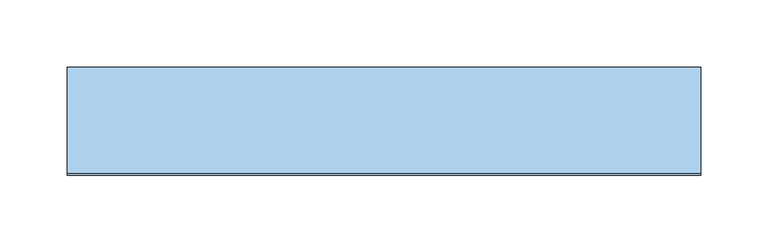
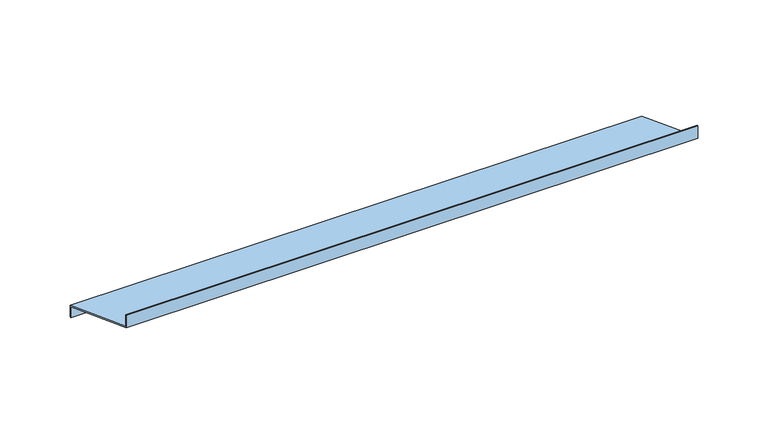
"""IFC4 building model written with IfcOpenShell, lengths in millimetres: window geometry, B2B_Отлив : Отлив_металлический."""

from ifc_helpers import new_model, si_unit, frame, origin, place, context, project, spatial, polyline, outline, extrude, source, transform, mapped, element, save


def window_dc4ac935(model_context):
    return source(origin(), model_context, "Body", "SweptSolid", [
        extrude(outline(polyline([(0.0, 29.3100704), (0.0, 40.0), (1.0, 40.0), (1.0, 30.0), (80.0, 0.0), (80.0, -10.0), (79.0, -10.0), (79.0, -0.6899296), (0.0, 29.3100704)])), frame((-235.0, 0.0, 0.0), z_axis=(1.0, 0.0, 0.0), x_axis=(0.0, 1.0, 0.0)), (0.0, 0.0, 1.0), 470.0),
    ])


if __name__ == "__main__":
    model = new_model("IFC4")
    model_context = context("Model", 3, world=origin())
    ifc_project = project(units=[si_unit("LENGTHUNIT", "METRE", prefix="MILLI")], contexts=[model_context])
    site = spatial("IfcSite", under=ifc_project)
    building = spatial("IfcBuilding", under=site)
    placement = place(None, origin())
    window_shape = window_dc4ac935(model_context)
    element("IfcWindow", 1, ObjectType="B2B_Отлив : Отлив_металлический", at=placement, inside=building, context=model_context, shape_type="MappedRepresentation", body=[
        mapped(window_shape, transform((0.0, 0.0, 0.0), x_axis=(1.0, 0.0, 0.0), y_axis=(0.0, 1.0, 0.0), z_axis=(0.0, 0.0, 1.0))),
    ])
    save(model, "model.ifc")
